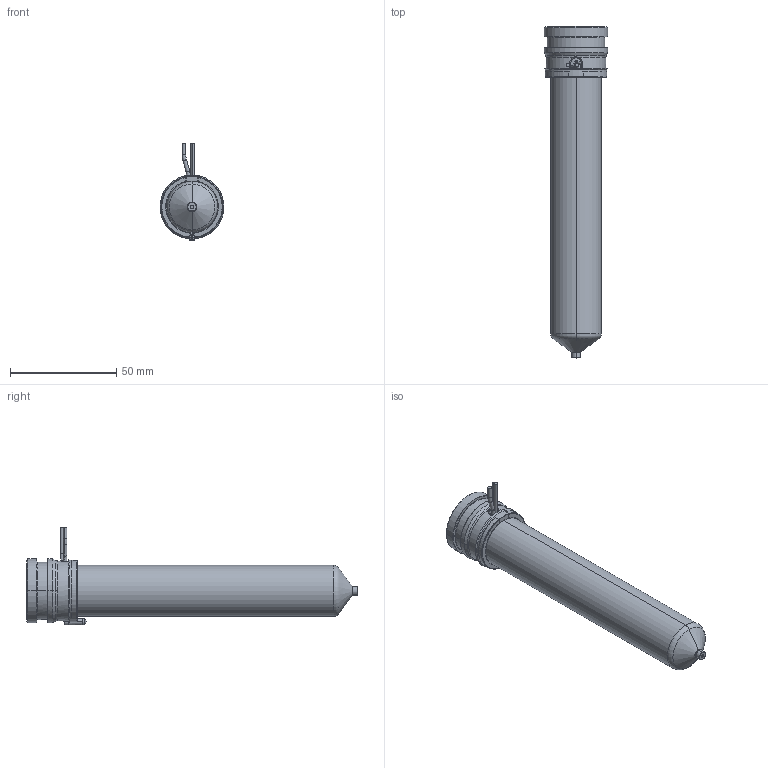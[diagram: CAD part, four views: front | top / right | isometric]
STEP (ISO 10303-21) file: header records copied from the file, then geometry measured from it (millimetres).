
FILE_DESCRIPTION((''),'2;1');
FILE_NAME('MPN-10-29-VP4-136-A','2026-02-05T12:43:01',('UPTIO'),('Thermoplay S.p.A.'),'CREO PARAMETRIC BY PTC INC, 2023494','CREO PARAMETRIC BY PTC INC, 2023494','');
FILE_SCHEMA(('CONFIG_CONTROL_DESIGN','SHAPE_APPEARANCE_LAYERS_GROUPS'));
Length unit declared in the file: millimetre
Products named in the file (1): MPN-10-29-VP4-136-A
Bounding box: 30 x 156.1 x 46 mm (x, y, z)
Volume: 48921.2 mm3; surface area: 49464.4 mm2
Topology: 2 solids, 3 shells, 580 faces, 1543 edges, 961 vertices
Faces by surface type: cylinder 180, plane 153, bspline 98, torus 70, cone 68, sphere 7, extrusion 4
Entity records: 32885 total; most frequent: CARTESIAN_POINT 15971, ORIENTED_EDGE 3074, DIRECTION 2691, EDGE_CURVE 1537, AXIS2_PLACEMENT_3D 1063, VERTEX_POINT 961, EDGE_LOOP 608, CIRCLE 584
